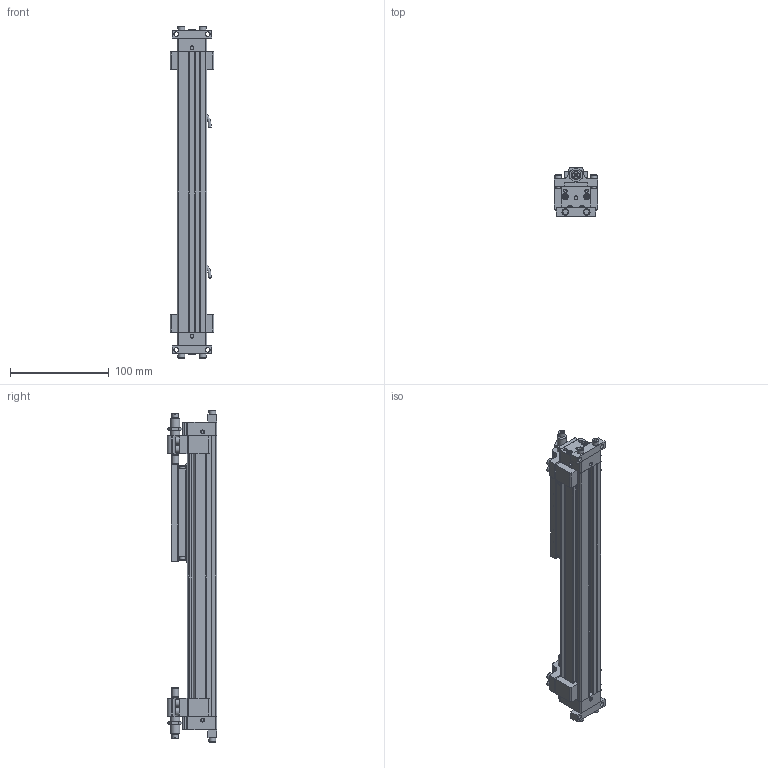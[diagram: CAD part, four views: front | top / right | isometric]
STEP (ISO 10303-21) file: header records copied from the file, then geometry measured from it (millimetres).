
FILE_DESCRIPTION (( 'STEP AP203' ), '1' );
FILE_NAME ('MXP16N_NP_SK6.000_MXP-479244-1.step', '2025-01-17T16:39:05', ( '' ), ( '' ), 'SwSTEP 2.0', 'SolidWorks 2024', '' );
FILE_SCHEMA (( 'CONFIG_CONTROL_DESIGN' ));
Length unit declared in the file: inch
Products named in the file (8): 81009800_MXP16N_NP_SK6.000_MXP-479244-1; 81169519_MXP16N_NP_SK6.000_MXP-479244-1; 79061065_MXP16N_NP_SK6.000_MXP-479244-1; 81169521_MXP16N_NP_SK6.000_MXP-479244-1; MXP16N_NP_SK6.000_MXP-479244-1; 81169500_MXP16N_NP_SK6.000_MXP-479244-1; 81169023_MXP16N_NP_SK6.000_MXP-479244-1; Base_MXP16N_NP_SK6.000_MXP-479244-1
Assembly tree (11 placements, depth 2):
  MXP16N_NP_SK6.000_MXP-479244-1
    81169519_MXP16N_NP_SK6.000_MXP-479244-1  x2
    81009800_MXP16N_NP_SK6.000_MXP-479244-1  x2
    81169521_MXP16N_NP_SK6.000_MXP-479244-1
    81169500_MXP16N_NP_SK6.000_MXP-479244-1
    79061065_MXP16N_NP_SK6.000_MXP-479244-1  x2
    81169023_MXP16N_NP_SK6.000_MXP-479244-1  x2
    Base_MXP16N_NP_SK6.000_MXP-479244-1
Bounding box: 44.28 x 50 x 335.83 mm (x, y, z)
Volume: 282309.9 mm3; surface area: 115848.9 mm2
Topology: 11 solids, 21 shells, 1401 faces, 3375 edges, 2149 vertices
Faces by surface type: plane 859, cylinder 359, cone 119, torus 50, bspline 10, sphere 4
Full cylindrical faces by diameter (mm): 1 x4, 2.25 x4, 2.54 x4, 2.705 x8, 3 x6, 3.175 x2, 3.454 x14, 3.505 x8, 3.51 x2, 3.91 x4, 4 x8, 4.039 x14, 4.166 x4, 4.57 x4, 5.5 x16, 5.74 x8, 6.4 x12, 6.528 x2, 6.54 x2, 6.731 x2, 6.858 x6, 7 x10, 7.145 x8, 9.525 x4, 15.85 x1
Entity records: 33264 total; most frequent: CARTESIAN_POINT 6005, DIRECTION 5630, ORIENTED_EDGE 4992, EDGE_CURVE 2496, AXIS2_PLACEMENT_3D 2046, VERTEX_POINT 1695, VECTOR 1538, LINE 1538
